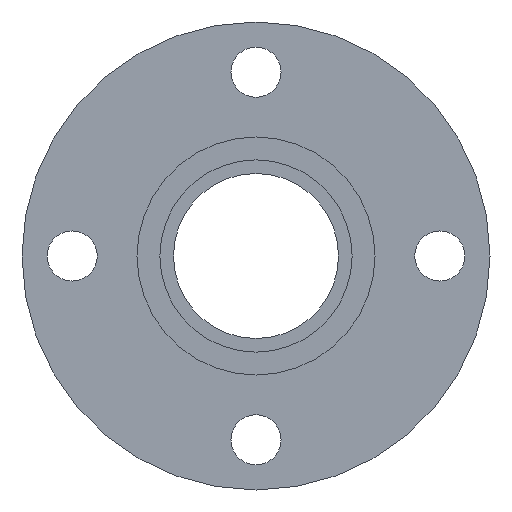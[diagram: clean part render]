
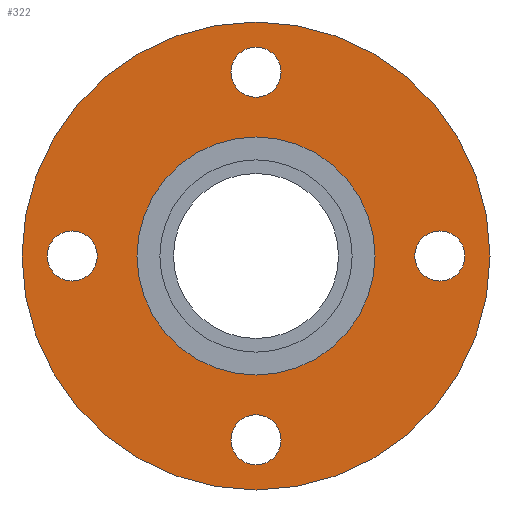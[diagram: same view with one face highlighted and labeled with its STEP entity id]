
A CAD part, left-side view. The second image highlights one B-rep face of the part: STEP entity #322.
In plain terms, the highlighted planar face has unit normal (-1, 0, 0).
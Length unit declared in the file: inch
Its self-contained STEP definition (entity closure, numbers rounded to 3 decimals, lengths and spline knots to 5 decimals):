
#14=FACE_BOUND('',#56,.T.);
#15=FACE_BOUND('',#57,.T.);
#16=FACE_BOUND('',#58,.T.);
#17=FACE_BOUND('',#59,.T.);
#18=FACE_BOUND('',#60,.T.);
#28=PLANE('',#370);
#39=FACE_OUTER_BOUND('',#55,.T.);
#55=EDGE_LOOP('',(#228,#229));
#56=EDGE_LOOP('',(#230));
#57=EDGE_LOOP('',(#231));
#58=EDGE_LOOP('',(#232));
#59=EDGE_LOOP('',(#233));
#60=EDGE_LOOP('',(#234,#235));
#101=CIRCLE('',#355,0.375);
#103=CIRCLE('',#358,0.375);
#105=CIRCLE('',#361,0.375);
#107=CIRCLE('',#364,0.375);
#108=CIRCLE('',#366,3.5);
#109=CIRCLE('',#367,3.5);
#112=CIRCLE('',#371,1.78);
#113=CIRCLE('',#372,1.78);
#133=VERTEX_POINT('',#513);
#135=VERTEX_POINT('',#519);
#137=VERTEX_POINT('',#525);
#139=VERTEX_POINT('',#531);
#140=VERTEX_POINT('',#535);
#141=VERTEX_POINT('',#536);
#144=VERTEX_POINT('',#545);
#145=VERTEX_POINT('',#546);
#166=EDGE_CURVE('',#133,#133,#101,.T.);
#169=EDGE_CURVE('',#135,#135,#103,.T.);
#172=EDGE_CURVE('',#137,#137,#105,.T.);
#175=EDGE_CURVE('',#139,#139,#107,.T.);
#176=EDGE_CURVE('',#140,#141,#108,.T.);
#177=EDGE_CURVE('',#141,#140,#109,.T.);
#181=EDGE_CURVE('',#144,#145,#112,.T.);
#182=EDGE_CURVE('',#145,#144,#113,.T.);
#228=ORIENTED_EDGE('',*,*,#176,.T.);
#229=ORIENTED_EDGE('',*,*,#177,.T.);
#230=ORIENTED_EDGE('',*,*,#166,.T.);
#231=ORIENTED_EDGE('',*,*,#169,.T.);
#232=ORIENTED_EDGE('',*,*,#172,.T.);
#233=ORIENTED_EDGE('',*,*,#175,.T.);
#234=ORIENTED_EDGE('',*,*,#181,.F.);
#235=ORIENTED_EDGE('',*,*,#182,.F.);
#322=ADVANCED_FACE('',(#39,#14,#15,#16,#17,#18),#28,.T.);
#355=AXIS2_PLACEMENT_3D('',#515,#408,#409);
#358=AXIS2_PLACEMENT_3D('',#521,#415,#416);
#361=AXIS2_PLACEMENT_3D('',#527,#422,#423);
#364=AXIS2_PLACEMENT_3D('',#533,#429,#430);
#366=AXIS2_PLACEMENT_3D('',#537,#433,#434);
#367=AXIS2_PLACEMENT_3D('',#538,#435,#436);
#370=AXIS2_PLACEMENT_3D('',#544,#442,#443);
#371=AXIS2_PLACEMENT_3D('',#547,#444,#445);
#372=AXIS2_PLACEMENT_3D('',#548,#446,#447);
#408=DIRECTION('center_axis',(1.,0.,0.));
#409=DIRECTION('ref_axis',(0.,-1.,0.));
#415=DIRECTION('center_axis',(1.,0.,0.));
#416=DIRECTION('ref_axis',(0.,0.,-1.));
#422=DIRECTION('center_axis',(1.,0.,0.));
#423=DIRECTION('ref_axis',(0.,1.,0.));
#429=DIRECTION('center_axis',(1.,0.,0.));
#430=DIRECTION('ref_axis',(0.,0.,1.));
#433=DIRECTION('center_axis',(-1.,0.,0.));
#434=DIRECTION('ref_axis',(0.,0.,1.));
#435=DIRECTION('center_axis',(-1.,0.,0.));
#436=DIRECTION('ref_axis',(0.,0.,1.));
#442=DIRECTION('center_axis',(-1.,0.,0.));
#443=DIRECTION('ref_axis',(0.,0.,1.));
#444=DIRECTION('center_axis',(-1.,0.,0.));
#445=DIRECTION('ref_axis',(0.,0.,1.));
#446=DIRECTION('center_axis',(-1.,0.,0.));
#447=DIRECTION('ref_axis',(0.,0.,1.));
#513=CARTESIAN_POINT('',(-0.88,3.125,0.));
#515=CARTESIAN_POINT('Origin',(-0.88,2.75,0.));
#519=CARTESIAN_POINT('',(-0.88,0.,3.125));
#521=CARTESIAN_POINT('Origin',(-0.88,0.,2.75));
#525=CARTESIAN_POINT('',(-0.88,-3.125,0.));
#527=CARTESIAN_POINT('Origin',(-0.88,-2.75,0.));
#531=CARTESIAN_POINT('',(-0.88,0.,-3.125));
#533=CARTESIAN_POINT('Origin',(-0.88,0.,-2.75));
#535=CARTESIAN_POINT('',(-0.88,0.,3.5));
#536=CARTESIAN_POINT('',(-0.88,0.,-3.5));
#537=CARTESIAN_POINT('Origin',(-0.88,0.,0.));
#538=CARTESIAN_POINT('Origin',(-0.88,0.,0.));
#544=CARTESIAN_POINT('Origin',(-0.88,0.,2.64));
#545=CARTESIAN_POINT('',(-0.88,0.,1.78));
#546=CARTESIAN_POINT('',(-0.88,0.,-1.78));
#547=CARTESIAN_POINT('Origin',(-0.88,0.,0.));
#548=CARTESIAN_POINT('Origin',(-0.88,0.,0.));
